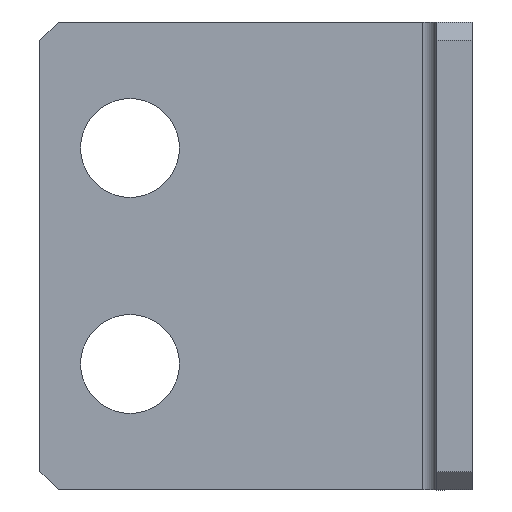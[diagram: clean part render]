
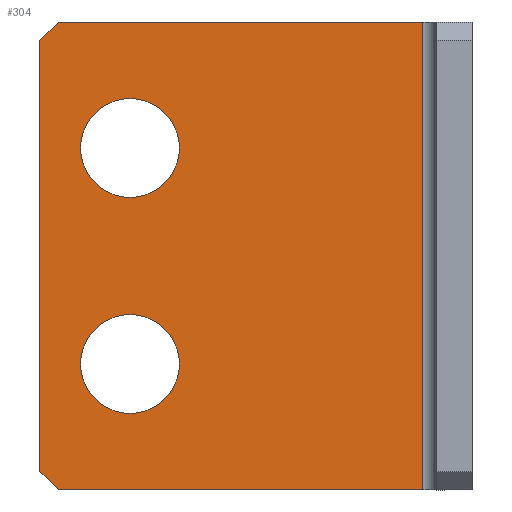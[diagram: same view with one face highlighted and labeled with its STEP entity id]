
A CAD part, left-side view. The second image highlights one B-rep face of the part: STEP entity #304.
In plain terms, the highlighted planar face has unit normal (-1, 0, 0).
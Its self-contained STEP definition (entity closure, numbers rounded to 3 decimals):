
#32 = CARTESIAN_POINT ( 'NONE',  ( 17., 0.737, 13. ) ) ;
#33 = EDGE_CURVE ( 'NONE', #333, #161, #557, .T. ) ;
#81 = DIRECTION ( 'NONE',  ( -1., 0., 0. ) ) ;
#84 = DIRECTION ( 'NONE',  ( 0., -1., 0. ) ) ;
#100 = CARTESIAN_POINT ( 'NONE',  ( 17., 0.737, -13. ) ) ;
#107 = EDGE_CURVE ( 'NONE', #161, #333, #142, .T. ) ;
#142 = CIRCLE ( 'NONE', #515, 2.75 ) ;
#147 = EDGE_LOOP ( 'NONE', ( #467, #843 ) ) ;
#155 = EDGE_LOOP ( 'NONE', ( #307, #725, #801, #417, #199, #238 ) ) ;
#157 = AXIS2_PLACEMENT_3D ( 'NONE', #398, #464, #487 ) ;
#161 = VERTEX_POINT ( 'NONE', #579 ) ;
#182 = CARTESIAN_POINT ( 'NONE',  ( 17., 21., 13. ) ) ;
#199 = ORIENTED_EDGE ( 'NONE', *, *, #879, .F. ) ;
#210 = DIRECTION ( 'NONE',  ( 0., 0., 1. ) ) ;
#212 = DIRECTION ( 'NONE',  ( 0., 0., 1. ) ) ;
#220 = VERTEX_POINT ( 'NONE', #950 ) ;
#238 = ORIENTED_EDGE ( 'NONE', *, *, #774, .T. ) ;
#243 = CARTESIAN_POINT ( 'NONE',  ( 17., 0., 13. ) ) ;
#244 = EDGE_CURVE ( 'NONE', #220, #913, #586, .T. ) ;
#247 = CARTESIAN_POINT ( 'NONE',  ( 17., 22., -13. ) ) ;
#304 = ADVANCED_FACE ( 'NONE', ( #521, #743, #825 ), #445, .T. ) ;
#307 = ORIENTED_EDGE ( 'NONE', *, *, #726, .F. ) ;
#314 = VECTOR ( 'NONE', #838, 1000. ) ;
#333 = VERTEX_POINT ( 'NONE', #538 ) ;
#334 = CARTESIAN_POINT ( 'NONE',  ( 17., 17., 17. ) ) ;
#340 = DIRECTION ( 'NONE',  ( 0., 1., 0. ) ) ;
#352 = VERTEX_POINT ( 'NONE', #673 ) ;
#375 = AXIS2_PLACEMENT_3D ( 'NONE', #488, #917, #705 ) ;
#395 = EDGE_CURVE ( 'NONE', #434, #766, #845, .T. ) ;
#398 = CARTESIAN_POINT ( 'NONE',  ( 17., 17., 6. ) ) ;
#417 = ORIENTED_EDGE ( 'NONE', *, *, #738, .F. ) ;
#428 = DIRECTION ( 'NONE',  ( 0., 0., 1. ) ) ;
#434 = VERTEX_POINT ( 'NONE', #100 ) ;
#441 = LINE ( 'NONE', #32, #868 ) ;
#445 = PLANE ( 'NONE',  #928 ) ;
#446 = VERTEX_POINT ( 'NONE', #182 ) ;
#454 = VECTOR ( 'NONE', #702, 1000. ) ;
#464 = DIRECTION ( 'NONE',  ( -1., 0., 0. ) ) ;
#467 = ORIENTED_EDGE ( 'NONE', *, *, #244, .F. ) ;
#471 = EDGE_CURVE ( 'NONE', #913, #220, #728, .T. ) ;
#485 = DIRECTION ( 'NONE',  ( 0., -0.707, -0.707 ) ) ;
#487 = DIRECTION ( 'NONE',  ( 0., 0., 1. ) ) ;
#488 = CARTESIAN_POINT ( 'NONE',  ( 17., 17., -6. ) ) ;
#495 = CARTESIAN_POINT ( 'NONE',  ( 17., 0.737, 13. ) ) ;
#513 = EDGE_LOOP ( 'NONE', ( #887, #938 ) ) ;
#515 = AXIS2_PLACEMENT_3D ( 'NONE', #877, #576, #428 ) ;
#521 = FACE_BOUND ( 'NONE', #147, .T. ) ;
#538 = CARTESIAN_POINT ( 'NONE',  ( 17., 17., -3.25 ) ) ;
#541 = CARTESIAN_POINT ( 'NONE',  ( 17., 17., -17. ) ) ;
#557 = CIRCLE ( 'NONE', #375, 2.75 ) ;
#576 = DIRECTION ( 'NONE',  ( -1., 0., 0. ) ) ;
#579 = CARTESIAN_POINT ( 'NONE',  ( 17., 17., -8.75 ) ) ;
#582 = LINE ( 'NONE', #747, #653 ) ;
#586 = CIRCLE ( 'NONE', #910, 2.75 ) ;
#589 = VERTEX_POINT ( 'NONE', #495 ) ;
#612 = LINE ( 'NONE', #243, #314 ) ;
#643 = DIRECTION ( 'NONE',  ( -1., 0., 0. ) ) ;
#653 = VECTOR ( 'NONE', #212, 1000. ) ;
#663 = CARTESIAN_POINT ( 'NONE',  ( 17., 22., -12. ) ) ;
#673 = CARTESIAN_POINT ( 'NONE',  ( 17., 22., 12. ) ) ;
#683 = CARTESIAN_POINT ( 'NONE',  ( 17., 21., -13. ) ) ;
#689 = VERTEX_POINT ( 'NONE', #663 ) ;
#691 = LINE ( 'NONE', #541, #756 ) ;
#702 = DIRECTION ( 'NONE',  ( 0., 0.707, -0.707 ) ) ;
#705 = DIRECTION ( 'NONE',  ( 0., 0., 1. ) ) ;
#725 = ORIENTED_EDGE ( 'NONE', *, *, #792, .T. ) ;
#726 = EDGE_CURVE ( 'NONE', #689, #352, #582, .T. ) ;
#728 = CIRCLE ( 'NONE', #157, 2.75 ) ;
#737 = CARTESIAN_POINT ( 'NONE',  ( 17., 0., 0. ) ) ;
#738 = EDGE_CURVE ( 'NONE', #589, #434, #441, .T. ) ;
#743 = FACE_BOUND ( 'NONE', #513, .T. ) ;
#747 = CARTESIAN_POINT ( 'NONE',  ( 17., 22., 13. ) ) ;
#756 = VECTOR ( 'NONE', #485, 1000. ) ;
#758 = LINE ( 'NONE', #334, #454 ) ;
#766 = VERTEX_POINT ( 'NONE', #683 ) ;
#767 = DIRECTION ( 'NONE',  ( 0., 0., -1. ) ) ;
#774 = EDGE_CURVE ( 'NONE', #446, #352, #758, .T. ) ;
#788 = CARTESIAN_POINT ( 'NONE',  ( 17., 17., 3.25 ) ) ;
#792 = EDGE_CURVE ( 'NONE', #689, #766, #691, .T. ) ;
#801 = ORIENTED_EDGE ( 'NONE', *, *, #395, .F. ) ;
#804 = VECTOR ( 'NONE', #340, 1000. ) ;
#825 = FACE_OUTER_BOUND ( 'NONE', #155, .T. ) ;
#838 = DIRECTION ( 'NONE',  ( 0., -1., 0. ) ) ;
#843 = ORIENTED_EDGE ( 'NONE', *, *, #471, .F. ) ;
#845 = LINE ( 'NONE', #247, #804 ) ;
#868 = VECTOR ( 'NONE', #767, 1000. ) ;
#877 = CARTESIAN_POINT ( 'NONE',  ( 17., 17., -6. ) ) ;
#879 = EDGE_CURVE ( 'NONE', #446, #589, #612, .T. ) ;
#887 = ORIENTED_EDGE ( 'NONE', *, *, #33, .F. ) ;
#910 = AXIS2_PLACEMENT_3D ( 'NONE', #932, #643, #210 ) ;
#913 = VERTEX_POINT ( 'NONE', #788 ) ;
#917 = DIRECTION ( 'NONE',  ( -1., 0., 0. ) ) ;
#928 = AXIS2_PLACEMENT_3D ( 'NONE', #737, #81, #84 ) ;
#932 = CARTESIAN_POINT ( 'NONE',  ( 17., 17., 6. ) ) ;
#938 = ORIENTED_EDGE ( 'NONE', *, *, #107, .F. ) ;
#950 = CARTESIAN_POINT ( 'NONE',  ( 17., 17., 8.75 ) ) ;
